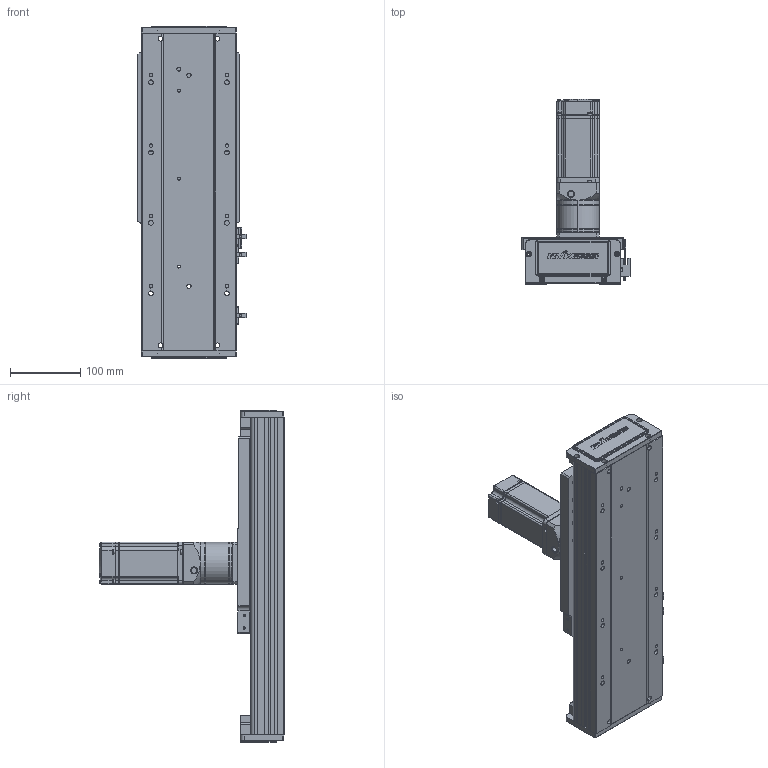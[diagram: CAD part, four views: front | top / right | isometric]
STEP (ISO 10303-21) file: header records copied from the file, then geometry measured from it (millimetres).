
FILE_DESCRIPTION (( 'STEP AP203' ), '1' );
FILE_NAME ('RY140-C-250-UK.SLDASM_100.step', '2022-03-12T01:57:58', ( '' ), ( '' ), 'SwSTEP 2.0', 'SolidWorks 2016', '' );
FILE_SCHEMA (( 'CONFIG_CONTROL_DESIGN' ));
Length unit declared in the file: millimetre
Products named in the file (12): 15; RY140-300齿条模组型材底座_100; RY140-喘謫萇儂覃誹啣; RY140-喘沭裔啣; RY140-喘沭賑輸; RY140-C-250-UK.SLDASM_100; 絳寢賑輸EGH15; 60ZDF珨撰俋倛芞T1 200W M4; RY140-絳寢EGH15-300-MK_100; 覜茼ん672; 140蚥薯蝶輸; RY120外置感应片(140共用）
Assembly tree (21 placements, depth 2):
  RY140-C-250-UK.SLDASM_100
    RY140-300齿条模组型材底座_100
    RY140-絳寢EGH15-300-MK_100  x2
    絳寢賑輸EGH15  x6
    RY140-喘沭裔啣  x2
    覜茼ん672  x3
    RY140-喘沭賑輸
    RY120外置感应片(140共用）
    RY140-喘謫萇儂覃誹啣
    140蚥薯蝶輸  x2
    60ZDF珨撰俋倛芞T1 200W M4
    15
Bounding box: 153.7 x 263.5 x 472 mm (x, y, z)
Volume: 2864037.5 mm3; surface area: 662055.7 mm2
Topology: 21 solids, 21 shells, 2918 faces, 7612 edges, 4948 vertices
Faces by surface type: plane 1598, cylinder 1098, cone 176, bspline 46
Entity records: 60913 total; most frequent: CARTESIAN_POINT 12456, DIRECTION 9873, ORIENTED_EDGE 9662, EDGE_CURVE 4831, AXIS2_PLACEMENT_3D 3418, VERTEX_POINT 3157, LINE 3037, VECTOR 3037
